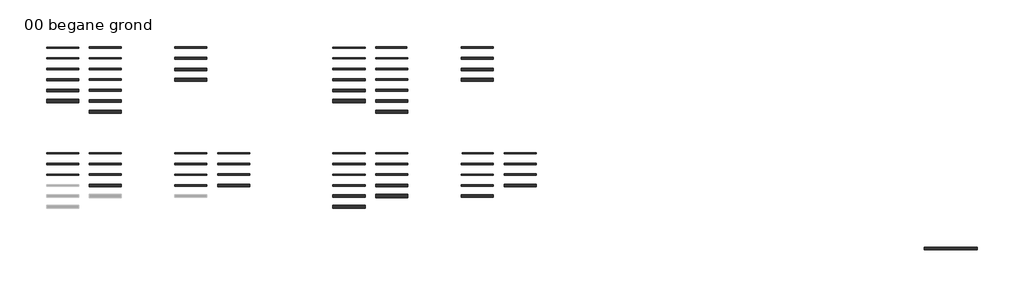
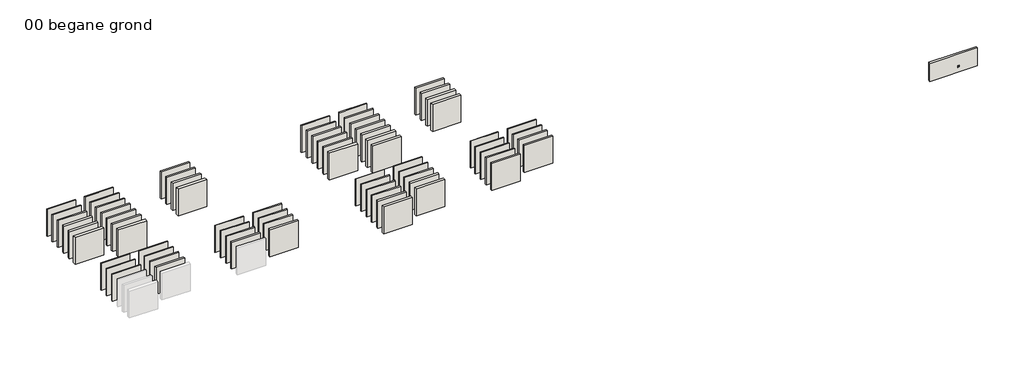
# One storey, part 2 of 4: 70 walls, 1 proxy.
"""IFC4 building model written with IfcOpenShell, lengths in millimetres."""

import ifcopenshell
import ifcopenshell.guid

model = None  # the IFC model being written
_history = None  # IfcOwnerHistory: only IFC2X3 demands one
_inside = {}  # id of a spatial element -> (the spatial element, [elements in it])
_under = {}  # id of a project, library or spatial element -> (it, [spatial elements below it])
_declared = {}  # id of a project -> (the project, [libraries it declares])
_typed = {}  # id of a type object -> (the type object, [elements of that type])
_made_of = {}  # id of a material, layer set ... -> (it, [elements and type objects made of it])


def new_model(schema):
    """Start an empty IFC model of exactly this schema.

    Asked for "IFC4X3", IfcOpenShell would pick the latest addendum, in which some entities
    have other attributes; the version numbers below select the first issue.
    IFC2X3 requires an IfcOwnerHistory on every rooted entity: one is made here for all.
    """
    global model, _history
    if schema == "IFC4X3":
        model = ifcopenshell.file(schema_version=(4, 3, 0, 0))
    else:
        model = ifcopenshell.file(schema=schema)
    _inside.clear()
    _under.clear()
    _declared.clear()
    _typed.clear()
    _made_of.clear()
    _history = None
    if model.schema == "IFC2X3":
        org = make("IfcOrganization", Name="unknown")
        user = make(
            "IfcPersonAndOrganization",
            ThePerson=make("IfcPerson", FamilyName="unknown"),
            TheOrganization=org,
        )
        app = make(
            "IfcApplication",
            ApplicationDeveloper=org,
            Version="unknown",
            ApplicationFullName="unknown",
            ApplicationIdentifier="unknown",
        )
        _history = make(
            "IfcOwnerHistory",
            OwningUser=user,
            OwningApplication=app,
            ChangeAction="ADDED",
            CreationDate=0,
        )
    return model


def make(cls, **values):
    """One entity of the class cls with the attributes given. An attribute that is None is left unset."""
    return model.create_entity(
        cls, **{name: value for name, value in values.items() if value is not None}
    )


def rooted(cls, **values):
    """An entity with a GlobalId (a new one), such as an element, a storey or a relation."""
    return make(cls, GlobalId=ifcopenshell.guid.new(), OwnerHistory=_history, **values)


def si_unit(unit_type, name, prefix=None):
    """IfcSIUnit, for example si_unit("LENGTHUNIT", "METRE", prefix="MILLI")."""
    return make("IfcSIUnit", UnitType=unit_type, Prefix=prefix, Name=name)


def assignment(units):
    """IfcUnitAssignment: the units of a project."""
    return None if units is None else make("IfcUnitAssignment", Units=units)


def point(xyz):
    """IfcCartesianPoint."""
    return None if xyz is None else make("IfcCartesianPoint", Coordinates=xyz)


def direction(xyz):
    """IfcDirection."""
    return None if xyz is None else make("IfcDirection", DirectionRatios=xyz)


def frame(location, z_axis=None, x_axis=None):
    """IfcAxis2Placement3D, a coordinate frame: its origin and axes. An axis left out is left unset."""
    return make(
        "IfcAxis2Placement3D",
        Location=point(location),
        Axis=direction(z_axis),
        RefDirection=direction(x_axis),
    )


def origin():
    """The frame at (0, 0, 0) with its axes left unset."""
    return frame((0.0, 0.0, 0.0))


def origin_with_axes():
    """The frame at (0, 0, 0) with the z axis (0, 0, 1) and the x axis (1, 0, 0) written out."""
    return frame((0.0, 0.0, 0.0), z_axis=(0.0, 0.0, 1.0), x_axis=(1.0, 0.0, 0.0))


def place(relative_to, where):
    """IfcLocalPlacement: puts the frame where relative to a parent placement (None: the world)."""
    return make(
        "IfcLocalPlacement", PlacementRelTo=relative_to, RelativePlacement=where
    )


def context(
    kind, dimensions, precision=None, world=None, true_north=None, identifier=None
):
    """IfcGeometricRepresentationContext, for example the 3D "Model" context."""
    return make(
        "IfcGeometricRepresentationContext",
        ContextIdentifier=identifier,
        ContextType=kind,
        CoordinateSpaceDimension=dimensions,
        Precision=precision,
        WorldCoordinateSystem=world,
        TrueNorth=true_north,
    )


def project(units=None, contexts=None):
    """IfcProject with its units and contexts."""
    return rooted(
        "IfcProject",
        Name="project",
        RepresentationContexts=contexts,
        UnitsInContext=assignment(units),
    )


def spatial(cls, under=None, at=None, **own):
    """A site, building, storey or space (cls), placed at a placement, below another one or the project."""
    s = rooted(cls, ObjectPlacement=at, **own)
    if under is not None:
        _under.setdefault(under.id(), (under, []))[1].append(s)
    return s


def polyline(points):
    """IfcPolyline through the points."""
    return make("IfcPolyline", Points=[point(p) for p in points])


def outline(outer, holes=None, kind="AREA"):
    """IfcArbitraryClosedProfileDef: a profile drawn as a closed curve; with holes, ...WithVoids."""
    if holes is None:
        return make("IfcArbitraryClosedProfileDef", ProfileType=kind, OuterCurve=outer)
    return make(
        "IfcArbitraryProfileDefWithVoids",
        ProfileType=kind,
        OuterCurve=outer,
        InnerCurves=holes,
    )


def extrude(swept, where, along, depth):
    """IfcExtrudedAreaSolid: the profile swept, set in the frame where, extruded along a direction by depth."""
    return make(
        "IfcExtrudedAreaSolid",
        SweptArea=swept,
        Position=where,
        ExtrudedDirection=direction(along),
        Depth=depth,
    )


def shape(context_of_items, identifier, shape_type, items):
    """IfcShapeRepresentation: the items that make up one representation, for example the "Body"."""
    return make(
        "IfcShapeRepresentation",
        ContextOfItems=context_of_items,
        RepresentationIdentifier=identifier,
        RepresentationType=shape_type,
        Items=items,
    )


def source(mapping_origin, context_of_items, identifier, shape_type, items):
    """IfcRepresentationMap: a shape defined once, which mapped items show again and again."""
    return make(
        "IfcRepresentationMap",
        MappingOrigin=mapping_origin,
        MappedRepresentation=shape(context_of_items, identifier, shape_type, items),
    )


def transform(
    local_origin,
    x_axis=None,
    y_axis=None,
    z_axis=None,
    scale=None,
    scale2=None,
    scale3=None,
    uniform=True,
):
    """IfcCartesianTransformationOperator3D, or its non-uniform kind. x_axis, y_axis, z_axis: its Axis1, 2, 3."""
    if uniform:
        return make(
            "IfcCartesianTransformationOperator3D",
            Axis1=direction(x_axis),
            Axis2=direction(y_axis),
            LocalOrigin=point(local_origin),
            Scale=scale,
            Axis3=direction(z_axis),
        )
    return make(
        "IfcCartesianTransformationOperator3DnonUniform",
        Axis1=direction(x_axis),
        Axis2=direction(y_axis),
        LocalOrigin=point(local_origin),
        Scale=scale,
        Axis3=direction(z_axis),
        Scale2=scale2,
        Scale3=scale3,
    )


def mapped(mapping_source, mapping_target):
    """IfcMappedItem: shows the shape of a source again, moved by a transform."""
    return make(
        "IfcMappedItem", MappingSource=mapping_source, MappingTarget=mapping_target
    )


def made_of(thing, what):
    """Note that an element or type object is made of a material, layer set ...; save() writes the relation."""
    if what is not None:
        _made_of.setdefault(what.id(), (what, []))[1].append(thing)
    return thing


def element(
    cls,
    number,
    at=None,
    inside=None,
    cuts=None,
    type_object=None,
    material=None,
    context=None,
    identifier="Body",
    shape_type=None,
    held_by="IfcProductDefinitionShape",
    body=None,
    shapes=None,
    **own,
):
    """One element of the class cls, such as IfcWall. Its Tag is "e" and its number.

    at: its placement. inside: the storey or other place that contains it. cuts: it is an
    opening in that element (IfcRelVoidsElement). A single representation is given by context,
    identifier, shape_type and body (its items); several are given by shapes. held_by: the class
    of the entity that holds the representations. save() writes the other relations.
    """
    e = rooted(cls, Tag="e%d" % number, ObjectPlacement=at, **own)
    if body is not None:
        shapes = [shape(context, identifier, shape_type, body)]
    if shapes is not None:
        e.Representation = make(held_by, Representations=shapes)
    if inside is not None:
        _inside.setdefault(inside.id(), (inside, []))[1].append(e)
    if cuts is not None:
        rooted(
            "IfcRelVoidsElement", RelatingBuildingElement=cuts, RelatedOpeningElement=e
        )
    if type_object is not None:
        _typed.setdefault(type_object.id(), (type_object, []))[1].append(e)
    return made_of(e, material)


def aggregate(whole, parts):
    """IfcRelAggregates: a whole, such as a stair, and the parts it consists of."""
    return rooted("IfcRelAggregates", RelatingObject=whole, RelatedObjects=parts)


def save(model, path):
    """Write the relations noted so far, then the file.

    IfcRelAggregates (storeys below a building ...), IfcRelContainedInSpatialStructure (elements
    in a storey), IfcRelDefinesByType, IfcRelAssociatesMaterial and IfcRelDeclares: one each for
    every whole, place, type object, material and project.
    """
    for whole, parts in _under.values():
        aggregate(whole, parts)
    for where, things in _inside.values():
        rooted(
            "IfcRelContainedInSpatialStructure",
            RelatedElements=things,
            RelatingStructure=where,
        )
    for kind, things in _typed.values():
        rooted("IfcRelDefinesByType", RelatedObjects=things, RelatingType=kind)
    for what, things in _made_of.values():
        rooted("IfcRelAssociatesMaterial", RelatedObjects=things, RelatingMaterial=what)
    for by, libraries in _declared.values():
        rooted("IfcRelDeclares", RelatingContext=by, RelatedDefinitions=libraries)
    model.write(path)


def proxy_200x200_dde65a00(model_context):
    return source(origin(), model_context, "Body", "SweptSolid", [
        extrude(outline(polyline([(125.0, 0.0), (25.0, 0.0), (25.0, 125.0), (125.0, 125.0), (125.0, 0.0)])), frame((0.0, 0.0, 567.3627135), z_axis=(0.0, 0.0, 1.0), x_axis=(1.0, 0.0, 0.0)), (0.0, 0.0, 1.0), 100.0),
        extrude(outline(polyline([(225.0, 0.0), (125.0, 0.0), (125.0, 125.0), (225.0, 125.0), (225.0, 0.0)])), frame((0.0, 0.0, 667.3627135), z_axis=(0.0, 0.0, 1.0), x_axis=(1.0, 0.0, 0.0)), (0.0, 0.0, 1.0), 100.0),
        extrude(outline(polyline([(225.0, 0.0), (125.0, 0.0), (125.0, 125.0), (225.0, 125.0), (225.0, 0.0)])), frame((0.0, 0.0, 567.3627135), z_axis=(0.0, 0.0, 1.0), x_axis=(1.0, 0.0, 0.0)), (0.0, 0.0, 1.0), 100.0),
        extrude(outline(polyline([(125.0, 0.0), (25.0, 0.0), (25.0, 125.0), (125.0, 125.0), (125.0, 0.0)])), frame((0.0, 0.0, 667.3627135), z_axis=(0.0, 0.0, 1.0), x_axis=(1.0, 0.0, 0.0)), (0.0, 0.0, 1.0), 100.0),
        extrude(outline(polyline([(125.0, -125.0), (25.0, -125.0), (25.0, 0.0), (125.0, 0.0), (125.0, -125.0)])), frame((0.0, 0.0, 567.3627135), z_axis=(0.0, 0.0, 1.0), x_axis=(1.0, 0.0, 0.0)), (0.0, 0.0, 1.0), 100.0),
        extrude(outline(polyline([(225.0, -125.0), (125.0, -125.0), (125.0, 0.0), (225.0, 0.0), (225.0, -125.0)])), frame((0.0, 0.0, 667.3627135), z_axis=(0.0, 0.0, 1.0), x_axis=(1.0, 0.0, 0.0)), (0.0, 0.0, 1.0), 100.0),
        extrude(outline(polyline([(225.0, -125.0), (125.0, -125.0), (125.0, 0.0), (225.0, 0.0), (225.0, -125.0)])), frame((0.0, 0.0, 567.3627135), z_axis=(0.0, 0.0, 1.0), x_axis=(1.0, 0.0, 0.0)), (0.0, 0.0, 1.0), 100.0),
        extrude(outline(polyline([(125.0, -125.0), (25.0, -125.0), (25.0, 0.0), (125.0, 0.0), (125.0, -125.0)])), frame((0.0, 0.0, 667.3627135), z_axis=(0.0, 0.0, 1.0), x_axis=(1.0, 0.0, 0.0)), (0.0, 0.0, 1.0), 100.0),
    ])


model = new_model("IFC4")

# Units and contexts
model_context = context("Model", 3, world=origin())
ifc_project = project(units=[si_unit("LENGTHUNIT", "METRE", prefix="MILLI")], contexts=[model_context])

# Site, building, storey
site = spatial("IfcSite", under=ifc_project)
building = spatial("IfcBuilding", under=site)
storey = spatial("IfcBuildingStorey", under=building, Name="00 begane grond", Elevation=0.0)

# Proxy
placement = place(None, origin())
proxy_200x200_shape = proxy_200x200_dde65a00(model_context)
element("IfcBuildingElementProxy", 1, Name="32.10_sparing rechthoek wall based : 200x200", ObjectType="32.10_sparing rechthoek wall based : 200x200", at=placement, inside=storey, context=model_context, shape_type="MappedRepresentation", body=[
    mapped(proxy_200x200_shape, transform((87440.4943783, -13755.7608943, -27.3627135), x_axis=(1.0, 0.0, 0.0), y_axis=(0.0, 1.0, 0.0), z_axis=(0.0, 0.0, 1.0))),
])

# Walls
element("IfcWall", 2, ObjectType="21.10_175mm kalkzandsteen hoogbouwelement CS36", at=placement, inside=storey, context=model_context, shape_type="SweptSolid", body=[
    extrude(outline(polyline([(17468.8995272, 4977.1461547), (14468.8995272, 4977.1461547), (14468.8995272, 5152.1461547), (17468.8995272, 5152.1461547), (17468.8995272, 4977.1461547)])), origin_with_axes(), (0.0, 0.0, 1.0), 3000.0),
])
element("IfcWall", 3, ObjectType="21.10_214mm kalkzandsteen hoogbouwelement CS36", at=placement, inside=storey, context=model_context, shape_type="SweptSolid", body=[
    extrude(outline(polyline([(17468.8995272, 3957.6461547), (14468.8995272, 3957.6461547), (14468.8995272, 4171.6461547), (17468.8995272, 4171.6461547), (17468.8995272, 3957.6461547)])), origin_with_axes(), (0.0, 0.0, 1.0), 3000.0),
])
element("IfcWall", 4, ObjectType="21.10_250mm kalkzandsteen hoogbouwelement CS36", at=placement, inside=storey, context=model_context, shape_type="SweptSolid", body=[
    extrude(outline(polyline([(17468.8995272, 2871.6461547), (14468.8995272, 2871.6461547), (14468.8995272, 3121.6461547), (17468.8995272, 3121.6461547), (17468.8995272, 2871.6461547)])), origin_with_axes(), (0.0, 0.0, 1.0), 3000.0),
])
element("IfcWall", 5, ObjectType="21.10_67mm kalkzandsteen lijmblok CS12", at=placement, inside=storey, context=model_context, shape_type="SweptSolid", body=[
    extrude(outline(polyline([(5468.8995272, -4868.8538453), (2468.8995272, -4868.8538453), (2468.8995272, -4801.8538453), (5468.8995272, -4801.8538453), (5468.8995272, -4868.8538453)])), origin_with_axes(), (0.0, 0.0, 1.0), 3000.0),
])
element("IfcWall", 6, ObjectType="21.10_100mm kalkzandsteen lijmblok CS12", at=placement, inside=storey, context=model_context, shape_type="SweptSolid", body=[
    extrude(outline(polyline([(5468.8995272, -5885.3538453), (2468.8995272, -5885.3538453), (2468.8995272, -5785.3538453), (5468.8995272, -5785.3538453), (5468.8995272, -5885.3538453)])), origin_with_axes(), (0.0, 0.0, 1.0), 3000.0),
])
element("IfcWall", 7, ObjectType="21.10_120mm kalkzandsteen lijmblok CS12", at=placement, inside=storey, context=model_context, shape_type="SweptSolid", body=[
    extrude(outline(polyline([(5468.8995272, -6895.3538453), (2468.8995272, -6895.3538453), (2468.8995272, -6775.3538453), (5468.8995272, -6775.3538453), (5468.8995272, -6895.3538453)])), origin_with_axes(), (0.0, 0.0, 1.0), 3000.0),
])
element("IfcWall", 8, ObjectType="21.10_100mm kalkzandsteen lijmblok CS20", at=placement, inside=storey, context=model_context, shape_type="SweptSolid", body=[
    extrude(outline(polyline([(9468.8995272, -4885.3538453), (6468.8995272, -4885.3538453), (6468.8995272, -4785.3538453), (9468.8995272, -4785.3538453), (9468.8995272, -4885.3538453)])), origin_with_axes(), (0.0, 0.0, 1.0), 3000.0),
])
element("IfcWall", 9, ObjectType="21.10_120mm kalkzandsteen lijmblok CS20", at=placement, inside=storey, context=model_context, shape_type="SweptSolid", body=[
    extrude(outline(polyline([(9468.8995272, -5895.3538453), (6468.8995272, -5895.3538453), (6468.8995272, -5775.3538453), (9468.8995272, -5775.3538453), (9468.8995272, -5895.3538453)])), origin_with_axes(), (0.0, 0.0, 1.0), 3000.0),
])
element("IfcWall", 10, ObjectType="21.10_150mm kalkzandsteen lijmblok CS20", at=placement, inside=storey, context=model_context, shape_type="SweptSolid", body=[
    extrude(outline(polyline([(9468.8995272, -6910.3538453), (6468.8995272, -6910.3538453), (6468.8995272, -6760.3538453), (9468.8995272, -6760.3538453), (9468.8995272, -6910.3538453)])), origin_with_axes(), (0.0, 0.0, 1.0), 3000.0),
])
element("IfcWall", 11, ObjectType="21.10_214mm kalkzandsteen lijmblok CS20", at=placement, inside=storey, context=model_context, shape_type="SweptSolid", body=[
    extrude(outline(polyline([(9468.8995272, -7942.3538453), (6468.8995272, -7942.3538453), (6468.8995272, -7728.3538453), (9468.8995272, -7728.3538453), (9468.8995272, -7942.3538453)])), origin_with_axes(), (0.0, 0.0, 1.0), 3000.0),
])
element("IfcWall", 12, ObjectType="21.10_67mm kalkzandsteen vellingblok CS12", at=placement, inside=storey, context=model_context, shape_type="SweptSolid", body=[
    extrude(outline(polyline([(17468.8995272, -4868.8538453), (14468.8995272, -4868.8538453), (14468.8995272, -4801.8538453), (17468.8995272, -4801.8538453), (17468.8995272, -4868.8538453)])), origin_with_axes(), (0.0, 0.0, 1.0), 3000.0),
])
element("IfcWall", 13, ObjectType="21.10_100mm kalkzandsteen vellingblok CS12", at=placement, inside=storey, context=model_context, shape_type="SweptSolid", body=[
    extrude(outline(polyline([(17468.8995272, -5885.3538453), (14468.8995272, -5885.3538453), (14468.8995272, -5785.3538453), (17468.8995272, -5785.3538453), (17468.8995272, -5885.3538453)])), origin_with_axes(), (0.0, 0.0, 1.0), 3000.0),
])
element("IfcWall", 14, ObjectType="21.10_120mm kalkzandsteen vellingblok CS12", at=placement, inside=storey, context=model_context, shape_type="SweptSolid", body=[
    extrude(outline(polyline([(17468.8995272, -6895.3538453), (14468.8995272, -6895.3538453), (14468.8995272, -6775.3538453), (17468.8995272, -6775.3538453), (17468.8995272, -6895.3538453)])), origin_with_axes(), (0.0, 0.0, 1.0), 3000.0),
])
element("IfcWall", 15, ObjectType="21.10_150mm kalkzandsteen vellingblok CS12", at=placement, inside=storey, context=model_context, shape_type="SweptSolid", body=[
    extrude(outline(polyline([(17468.8995272, -7910.3538453), (14468.8995272, -7910.3538453), (14468.8995272, -7760.3538453), (17468.8995272, -7760.3538453), (17468.8995272, -7910.3538453)])), origin_with_axes(), (0.0, 0.0, 1.0), 3000.0),
])
element("IfcWall", 16, ObjectType="21.10_100mm kalkzandsteen vellingblok CS20", at=placement, inside=storey, context=model_context, shape_type="SweptSolid", body=[
    extrude(outline(polyline([(21468.8995272, -4885.3538453), (18468.8995272, -4885.3538453), (18468.8995272, -4785.3538453), (21468.8995272, -4785.3538453), (21468.8995272, -4885.3538453)])), origin_with_axes(), (0.0, 0.0, 1.0), 3000.0),
])
element("IfcWall", 17, ObjectType="21.10_120mm kalkzandsteen vellingblok CS20", at=placement, inside=storey, context=model_context, shape_type="SweptSolid", body=[
    extrude(outline(polyline([(21468.8995272, -5895.3538453), (18468.8995272, -5895.3538453), (18468.8995272, -5775.3538453), (21468.8995272, -5775.3538453), (21468.8995272, -5895.3538453)])), origin_with_axes(), (0.0, 0.0, 1.0), 3000.0),
])
element("IfcWall", 18, ObjectType="21.10_150mm kalkzandsteen vellingblok CS20", at=placement, inside=storey, context=model_context, shape_type="SweptSolid", body=[
    extrude(outline(polyline([(21468.8995272, -6910.3538453), (18468.8995272, -6910.3538453), (18468.8995272, -6760.3538453), (21468.8995272, -6760.3538453), (21468.8995272, -6910.3538453)])), origin_with_axes(), (0.0, 0.0, 1.0), 3000.0),
])
element("IfcWall", 19, ObjectType="21.10_214mm kalkzandsteen vellingblok CS20", at=placement, inside=storey, context=model_context, shape_type="SweptSolid", body=[
    extrude(outline(polyline([(21468.8995272, -7942.3538453), (18468.8995272, -7942.3538453), (18468.8995272, -7728.3538453), (21468.8995272, -7728.3538453), (21468.8995272, -7942.3538453)])), origin_with_axes(), (0.0, 0.0, 1.0), 3000.0),
])
element("IfcWall", 20, ObjectType="21.10_300mm kalkzandsteen hoogbouwelement CS36", at=placement, inside=storey, context=model_context, shape_type="SweptSolid", body=[
    extrude(outline(polyline([(17468.8995272, 1889.6461547), (14468.8995272, 1889.6461547), (14468.8995272, 2189.6461547), (17468.8995272, 2189.6461547), (17468.8995272, 1889.6461547)])), origin_with_axes(), (0.0, 0.0, 1.0), 3000.0),
])
element("IfcWall", 21, ObjectType="22.10_175mm kalkzandsteen hoogbouwelement CS36", at=placement, inside=storey, context=model_context, shape_type="SweptSolid", body=[
    extrude(outline(polyline([(44268.8995272, 4977.1461547), (41268.8995272, 4977.1461547), (41268.8995272, 5152.1461547), (44268.8995272, 5152.1461547), (44268.8995272, 4977.1461547)])), origin_with_axes(), (0.0, 0.0, 1.0), 3000.0),
])
element("IfcWall", 22, ObjectType="22.10_214mm kalkzandsteen hoogbouwelement CS36", at=placement, inside=storey, context=model_context, shape_type="SweptSolid", body=[
    extrude(outline(polyline([(44268.8995272, 3957.6461547), (41268.8995272, 3957.6461547), (41268.8995272, 4171.6461547), (44268.8995272, 4171.6461547), (44268.8995272, 3957.6461547)])), origin_with_axes(), (0.0, 0.0, 1.0), 3000.0),
])
element("IfcWall", 23, ObjectType="22.10_250mm kalkzandsteen hoogbouwelement CS36", at=placement, inside=storey, context=model_context, shape_type="SweptSolid", body=[
    extrude(outline(polyline([(44268.8995272, 2871.6461547), (41268.8995272, 2871.6461547), (41268.8995272, 3121.6461547), (44268.8995272, 3121.6461547), (44268.8995272, 2871.6461547)])), origin_with_axes(), (0.0, 0.0, 1.0), 3000.0),
])
element("IfcWall", 24, ObjectType="22.10_67mm kalkzandsteen lijmblok CS12", at=placement, inside=storey, context=model_context, shape_type="SweptSolid", body=[
    extrude(outline(polyline([(32268.8995272, -4868.8538453), (29268.8995272, -4868.8538453), (29268.8995272, -4801.8538453), (32268.8995272, -4801.8538453), (32268.8995272, -4868.8538453)])), origin_with_axes(), (0.0, 0.0, 1.0), 3000.0),
])
element("IfcWall", 25, ObjectType="22.10_100mm kalkzandsteen lijmblok CS12", at=placement, inside=storey, context=model_context, shape_type="SweptSolid", body=[
    extrude(outline(polyline([(32268.8995272, -5885.3538453), (29268.8995272, -5885.3538453), (29268.8995272, -5785.3538453), (32268.8995272, -5785.3538453), (32268.8995272, -5885.3538453)])), origin_with_axes(), (0.0, 0.0, 1.0), 3000.0),
])
element("IfcWall", 26, ObjectType="22.10_120mm kalkzandsteen lijmblok CS12", at=placement, inside=storey, context=model_context, shape_type="SweptSolid", body=[
    extrude(outline(polyline([(32268.8995272, -6895.3538453), (29268.8995272, -6895.3538453), (29268.8995272, -6775.3538453), (32268.8995272, -6775.3538453), (32268.8995272, -6895.3538453)])), origin_with_axes(), (0.0, 0.0, 1.0), 3000.0),
])
element("IfcWall", 27, ObjectType="22.10_150mm kalkzandsteen lijmblok CS12", at=placement, inside=storey, context=model_context, shape_type="SweptSolid", body=[
    extrude(outline(polyline([(32268.8995272, -7910.3538453), (29268.8995272, -7910.3538453), (29268.8995272, -7760.3538453), (32268.8995272, -7760.3538453), (32268.8995272, -7910.3538453)])), origin_with_axes(), (0.0, 0.0, 1.0), 3000.0),
])
element("IfcWall", 28, ObjectType="22.10_214mm kalkzandsteen lijmblok CS12", at=placement, inside=storey, context=model_context, shape_type="SweptSolid", body=[
    extrude(outline(polyline([(32268.8995272, -8942.3538453), (29268.8995272, -8942.3538453), (29268.8995272, -8728.3538453), (32268.8995272, -8728.3538453), (32268.8995272, -8942.3538453)])), origin_with_axes(), (0.0, 0.0, 1.0), 3000.0),
])
element("IfcWall", 29, ObjectType="22.10_300mm kalkzandsteen lijmblok CS12", at=placement, inside=storey, context=model_context, shape_type="SweptSolid", body=[
    extrude(outline(polyline([(32268.8995272, -9985.3538453), (29268.8995272, -9985.3538453), (29268.8995272, -9685.3538453), (32268.8995272, -9685.3538453), (32268.8995272, -9985.3538453)])), origin_with_axes(), (0.0, 0.0, 1.0), 3000.0),
])
element("IfcWall", 30, ObjectType="22.10_100mm kalkzandsteen lijmblok CS20", at=placement, inside=storey, context=model_context, shape_type="SweptSolid", body=[
    extrude(outline(polyline([(36268.8995272, -4885.3538453), (33268.8995272, -4885.3538453), (33268.8995272, -4785.3538453), (36268.8995272, -4785.3538453), (36268.8995272, -4885.3538453)])), origin_with_axes(), (0.0, 0.0, 1.0), 3000.0),
])
element("IfcWall", 31, ObjectType="22.10_120mm kalkzandsteen lijmblok CS20", at=placement, inside=storey, context=model_context, shape_type="SweptSolid", body=[
    extrude(outline(polyline([(36268.8995272, -5895.3538453), (33268.8995272, -5895.3538453), (33268.8995272, -5775.3538453), (36268.8995272, -5775.3538453), (36268.8995272, -5895.3538453)])), origin_with_axes(), (0.0, 0.0, 1.0), 3000.0),
])
element("IfcWall", 32, ObjectType="22.10_150mm kalkzandsteen lijmblok CS20", at=placement, inside=storey, context=model_context, shape_type="SweptSolid", body=[
    extrude(outline(polyline([(36268.8995272, -6910.3538453), (33268.8995272, -6910.3538453), (33268.8995272, -6760.3538453), (36268.8995272, -6760.3538453), (36268.8995272, -6910.3538453)])), origin_with_axes(), (0.0, 0.0, 1.0), 3000.0),
])
element("IfcWall", 33, ObjectType="22.10_214mm kalkzandsteen lijmblok CS20", at=placement, inside=storey, context=model_context, shape_type="SweptSolid", body=[
    extrude(outline(polyline([(36268.8995272, -7942.3538453), (33268.8995272, -7942.3538453), (33268.8995272, -7728.3538453), (36268.8995272, -7728.3538453), (36268.8995272, -7942.3538453)])), origin_with_axes(), (0.0, 0.0, 1.0), 3000.0),
])
element("IfcWall", 34, ObjectType="22.10_300mm kalkzandsteen lijmblok CS20", at=placement, inside=storey, context=model_context, shape_type="SweptSolid", body=[
    extrude(outline(polyline([(36268.8995272, -8985.3538453), (33268.8995272, -8985.3538453), (33268.8995272, -8685.3538453), (36268.8995272, -8685.3538453), (36268.8995272, -8985.3538453)])), origin_with_axes(), (0.0, 0.0, 1.0), 3000.0),
])
element("IfcWall", 35, ObjectType="22.10_67mm kalkzandsteen vellingblok CS12", at=placement, inside=storey, context=model_context, shape_type="SweptSolid", body=[
    extrude(outline(polyline([(44268.8995272, -4868.8538453), (41368.8995272, -4868.8538453), (41368.8995272, -4801.8538453), (44268.8995272, -4801.8538453), (44268.8995272, -4868.8538453)])), origin_with_axes(), (0.0, 0.0, 1.0), 3000.0),
])
element("IfcWall", 36, ObjectType="22.10_100mm kalkzandsteen vellingblok CS12", at=placement, inside=storey, context=model_context, shape_type="SweptSolid", body=[
    extrude(outline(polyline([(44268.8995272, -5885.3538453), (41268.8995272, -5885.3538453), (41268.8995272, -5785.3538453), (44268.8995272, -5785.3538453), (44268.8995272, -5885.3538453)])), origin_with_axes(), (0.0, 0.0, 1.0), 3000.0),
])
element("IfcWall", 37, ObjectType="22.10_120mm kalkzandsteen vellingblok CS12", at=placement, inside=storey, context=model_context, shape_type="SweptSolid", body=[
    extrude(outline(polyline([(44268.8995272, -6895.3538453), (41268.8995272, -6895.3538453), (41268.8995272, -6775.3538453), (44268.8995272, -6775.3538453), (44268.8995272, -6895.3538453)])), origin_with_axes(), (0.0, 0.0, 1.0), 3000.0),
])
element("IfcWall", 38, ObjectType="22.10_150mm kalkzandsteen vellingblok CS12", at=placement, inside=storey, context=model_context, shape_type="SweptSolid", body=[
    extrude(outline(polyline([(44268.8995272, -7910.3538453), (41268.8995272, -7910.3538453), (41268.8995272, -7760.3538453), (44268.8995272, -7760.3538453), (44268.8995272, -7910.3538453)])), origin_with_axes(), (0.0, 0.0, 1.0), 3000.0),
])
element("IfcWall", 39, ObjectType="22.10_214mm kalkzandsteen vellingblok CS12", at=placement, inside=storey, context=model_context, shape_type="SweptSolid", body=[
    extrude(outline(polyline([(44268.8995272, -8942.3538453), (41268.8995272, -8942.3538453), (41268.8995272, -8728.3538453), (44268.8995272, -8728.3538453), (44268.8995272, -8942.3538453)])), origin_with_axes(), (0.0, 0.0, 1.0), 3000.0),
])
element("IfcWall", 40, ObjectType="22.10_100mm kalkzandsteen vellingblok CS20", at=placement, inside=storey, context=model_context, shape_type="SweptSolid", body=[
    extrude(outline(polyline([(48268.8995272, -4885.3538453), (45268.8995272, -4885.3538453), (45268.8995272, -4785.3538453), (48268.8995272, -4785.3538453), (48268.8995272, -4885.3538453)])), origin_with_axes(), (0.0, 0.0, 1.0), 3000.0),
])
element("IfcWall", 41, ObjectType="22.10_120mm kalkzandsteen vellingblok CS20", at=placement, inside=storey, context=model_context, shape_type="SweptSolid", body=[
    extrude(outline(polyline([(48268.8995272, -5895.3538453), (45268.8995272, -5895.3538453), (45268.8995272, -5775.3538453), (48268.8995272, -5775.3538453), (48268.8995272, -5895.3538453)])), origin_with_axes(), (0.0, 0.0, 1.0), 3000.0),
])
element("IfcWall", 42, ObjectType="22.10_150mm kalkzandsteen vellingblok CS20", at=placement, inside=storey, context=model_context, shape_type="SweptSolid", body=[
    extrude(outline(polyline([(48268.8995272, -6910.3538453), (45268.8995272, -6910.3538453), (45268.8995272, -6760.3538453), (48268.8995272, -6760.3538453), (48268.8995272, -6910.3538453)])), origin_with_axes(), (0.0, 0.0, 1.0), 3000.0),
])
element("IfcWall", 43, ObjectType="22.10_214mm kalkzandsteen vellingblok CS20", at=placement, inside=storey, context=model_context, shape_type="SweptSolid", body=[
    extrude(outline(polyline([(48268.8995272, -7942.3538453), (45268.8995272, -7942.3538453), (45268.8995272, -7728.3538453), (48268.8995272, -7728.3538453), (48268.8995272, -7942.3538453)])), origin_with_axes(), (0.0, 0.0, 1.0), 3000.0),
])
element("IfcWall", 44, ObjectType="22.10_300mm kalkzandsteen hoogbouwelement CS36", at=placement, inside=storey, context=model_context, shape_type="SweptSolid", body=[
    extrude(outline(polyline([(44268.8995272, 1889.6461547), (41268.8995272, 1889.6461547), (41268.8995272, 2189.6461547), (44268.8995272, 2189.6461547), (44268.8995272, 1889.6461547)])), origin_with_axes(), (0.0, 0.0, 1.0), 3000.0),
])
element("IfcWall", 45, ObjectType="22.10_250mm kalkzandsteen hoogbouwelement CS36", at=placement, inside=storey, context=model_context, shape_type="SweptSolid", body=[
    extrude(outline(polyline([(0.0, 84565.4943783), (0.0, 89565.4943783), (2000.0, 89565.4943783), (2000.0, 84565.4943783), (0.0, 84565.4943783)]), holes=[polyline([(540.0, 87465.4943783), (740.0, 87465.4943783), (740.0, 87665.4943783), (540.0, 87665.4943783), (540.0, 87465.4943783)])]), frame((0.0, -13880.7608943, 0.0), z_axis=(0.0, 1.0, 0.0), x_axis=(0.0, 0.0, 1.0)), (0.0, 0.0, 1.0), 250.0),
])
element("IfcWall", 46, ObjectType="21.10_100mm kalkzandsteen element CS12", at=placement, inside=storey, context=model_context, shape_type="SweptSolid", body=[
    extrude(outline(polyline([(5468.8995272, 5004.6461547), (2468.8995272, 5004.6461547), (2468.8995272, 5104.6461547), (5468.8995272, 5104.6461547), (5468.8995272, 5004.6461547)])), origin_with_axes(), (0.0, 0.0, 1.0), 3000.0),
])
element("IfcWall", 47, ObjectType="21.10_100mm kalkzandsteen element CS20", at=placement, inside=storey, context=model_context, shape_type="SweptSolid", body=[
    extrude(outline(polyline([(9468.8995272, 5014.6461547), (6468.8995272, 5014.6461547), (6468.8995272, 5114.6461547), (9468.8995272, 5114.6461547), (9468.8995272, 5014.6461547)])), origin_with_axes(), (0.0, 0.0, 1.0), 3000.0),
])
element("IfcWall", 48, ObjectType="21.10_120mm kalkzandsteen element CS12", at=placement, inside=storey, context=model_context, shape_type="SweptSolid", body=[
    extrude(outline(polyline([(5468.8995272, 3994.6461547), (2468.8995272, 3994.6461547), (2468.8995272, 4114.6461547), (5468.8995272, 4114.6461547), (5468.8995272, 3994.6461547)])), origin_with_axes(), (0.0, 0.0, 1.0), 3000.0),
])
element("IfcWall", 49, ObjectType="21.10_120mm kalkzandsteen element CS20", at=placement, inside=storey, context=model_context, shape_type="SweptSolid", body=[
    extrude(outline(polyline([(9468.8995272, 4004.6461547), (6468.8995272, 4004.6461547), (6468.8995272, 4124.6461547), (9468.8995272, 4124.6461547), (9468.8995272, 4004.6461547)])), origin_with_axes(), (0.0, 0.0, 1.0), 3000.0),
])
element("IfcWall", 50, ObjectType="21.10_150mm kalkzandsteen element CS12", at=placement, inside=storey, context=model_context, shape_type="SweptSolid", body=[
    extrude(outline(polyline([(5468.8995272, 2970.1461547), (2468.8995272, 2970.1461547), (2468.8995272, 3120.1461547), (5468.8995272, 3120.1461547), (5468.8995272, 2970.1461547)])), origin_with_axes(), (0.0, 0.0, 1.0), 3000.0),
])
element("IfcWall", 51, ObjectType="21.10_150mm kalkzandsteen element CS20", at=placement, inside=storey, context=model_context, shape_type="SweptSolid", body=[
    extrude(outline(polyline([(9468.8995272, 2989.6461547), (6468.8995272, 2989.6461547), (6468.8995272, 3139.6461547), (9468.8995272, 3139.6461547), (9468.8995272, 2989.6461547)])), origin_with_axes(), (0.0, 0.0, 1.0), 3000.0),
])
element("IfcWall", 52, ObjectType="21.10_175mm kalkzandsteen element CS20", at=placement, inside=storey, context=model_context, shape_type="SweptSolid", body=[
    extrude(outline(polyline([(9468.8995272, 1977.1461547), (6468.8995272, 1977.1461547), (6468.8995272, 2152.1461547), (9468.8995272, 2152.1461547), (9468.8995272, 1977.1461547)])), origin_with_axes(), (0.0, 0.0, 1.0), 3000.0),
])
element("IfcWall", 53, ObjectType="21.10_214mm kalkzandsteen element CS12", at=placement, inside=storey, context=model_context, shape_type="SweptSolid", body=[
    extrude(outline(polyline([(5468.8995272, 1944.6461547), (2468.8995272, 1944.6461547), (2468.8995272, 2158.6461547), (5468.8995272, 2158.6461547), (5468.8995272, 1944.6461547)])), origin_with_axes(), (0.0, 0.0, 1.0), 3000.0),
])
element("IfcWall", 54, ObjectType="21.10_214mm kalkzandsteen element CS20", at=placement, inside=storey, context=model_context, shape_type="SweptSolid", body=[
    extrude(outline(polyline([(9468.8995272, 957.6461547), (6468.8995272, 957.6461547), (6468.8995272, 1171.6461547), (9468.8995272, 1171.6461547), (9468.8995272, 957.6461547)])), origin_with_axes(), (0.0, 0.0, 1.0), 3000.0),
])
element("IfcWall", 55, ObjectType="21.10_240mm kalkzandsteen element CS12", at=placement, inside=storey, context=model_context, shape_type="SweptSolid", body=[
    extrude(outline(polyline([(5468.8995272, 931.6461547), (2468.8995272, 931.6461547), (2468.8995272, 1171.6461547), (5468.8995272, 1171.6461547), (5468.8995272, 931.6461547)])), origin_with_axes(), (0.0, 0.0, 1.0), 3000.0),
])
element("IfcWall", 56, ObjectType="21.10_240mm kalkzandsteen element CS20", at=placement, inside=storey, context=model_context, shape_type="SweptSolid", body=[
    extrude(outline(polyline([(9468.8995272, -55.3538453), (6468.8995272, -55.3538453), (6468.8995272, 184.6461547), (9468.8995272, 184.6461547), (9468.8995272, -55.3538453)])), origin_with_axes(), (0.0, 0.0, 1.0), 3000.0),
])
element("IfcWall", 57, ObjectType="21.10_300mm kalkzandsteen element CS12", at=placement, inside=storey, context=model_context, shape_type="SweptSolid", body=[
    extrude(outline(polyline([(5468.8995272, -98.3538453), (2468.8995272, -98.3538453), (2468.8995272, 201.6461547), (5468.8995272, 201.6461547), (5468.8995272, -98.3538453)])), origin_with_axes(), (0.0, 0.0, 1.0), 3000.0),
])
element("IfcWall", 58, ObjectType="21.10_300mm kalkzandsteen element CS20", at=placement, inside=storey, context=model_context, shape_type="SweptSolid", body=[
    extrude(outline(polyline([(9468.8995272, -1085.3538453), (6468.8995272, -1085.3538453), (6468.8995272, -785.3538453), (9468.8995272, -785.3538453), (9468.8995272, -1085.3538453)])), origin_with_axes(), (0.0, 0.0, 1.0), 3000.0),
])
element("IfcWall", 59, ObjectType="22.10_100mm kalkzandsteen element CS12", at=placement, inside=storey, context=model_context, shape_type="SweptSolid", body=[
    extrude(outline(polyline([(32268.8995272, 5004.6461547), (29268.8995272, 5004.6461547), (29268.8995272, 5104.6461547), (32268.8995272, 5104.6461547), (32268.8995272, 5004.6461547)])), origin_with_axes(), (0.0, 0.0, 1.0), 3000.0),
])
element("IfcWall", 60, ObjectType="22.10_100mm kalkzandsteen element CS20", at=placement, inside=storey, context=model_context, shape_type="SweptSolid", body=[
    extrude(outline(polyline([(36168.8995272, 5014.6461547), (33268.8995272, 5014.6461547), (33268.8995272, 5114.6461547), (36168.8995272, 5114.6461547), (36168.8995272, 5014.6461547)])), origin_with_axes(), (0.0, 0.0, 1.0), 3000.0),
])
element("IfcWall", 61, ObjectType="22.10_120mm kalkzandsteen element CS12", at=placement, inside=storey, context=model_context, shape_type="SweptSolid", body=[
    extrude(outline(polyline([(32268.8995272, 3994.6461547), (29268.8995272, 3994.6461547), (29268.8995272, 4114.6461547), (32268.8995272, 4114.6461547), (32268.8995272, 3994.6461547)])), origin_with_axes(), (0.0, 0.0, 1.0), 3000.0),
])
element("IfcWall", 62, ObjectType="22.10_120mm kalkzandsteen element CS20", at=placement, inside=storey, context=model_context, shape_type="SweptSolid", body=[
    extrude(outline(polyline([(36268.8995272, 4004.6461547), (33268.8995272, 4004.6461547), (33268.8995272, 4124.6461547), (36268.8995272, 4124.6461547), (36268.8995272, 4004.6461547)])), origin_with_axes(), (0.0, 0.0, 1.0), 3000.0),
])
element("IfcWall", 63, ObjectType="22.10_150mm kalkzandsteen element CS12", at=placement, inside=storey, context=model_context, shape_type="SweptSolid", body=[
    extrude(outline(polyline([(32268.8995272, 2970.1461547), (29268.8995272, 2970.1461547), (29268.8995272, 3120.1461547), (32268.8995272, 3120.1461547), (32268.8995272, 2970.1461547)])), origin_with_axes(), (0.0, 0.0, 1.0), 3000.0),
])
element("IfcWall", 64, ObjectType="22.10_150mm kalkzandsteen element CS20", at=placement, inside=storey, context=model_context, shape_type="SweptSolid", body=[
    extrude(outline(polyline([(36268.8995272, 2989.6461547), (33268.8995272, 2989.6461547), (33268.8995272, 3139.6461547), (36268.8995272, 3139.6461547), (36268.8995272, 2989.6461547)])), origin_with_axes(), (0.0, 0.0, 1.0), 3000.0),
])
element("IfcWall", 65, ObjectType="22.10_175mm kalkzandsteen element CS20", at=placement, inside=storey, context=model_context, shape_type="SweptSolid", body=[
    extrude(outline(polyline([(36268.8995272, 1977.1461547), (33268.8995272, 1977.1461547), (33268.8995272, 2152.1461547), (36268.8995272, 2152.1461547), (36268.8995272, 1977.1461547)])), origin_with_axes(), (0.0, 0.0, 1.0), 3000.0),
])
element("IfcWall", 66, ObjectType="22.10_214mm kalkzandsteen element CS12", at=placement, inside=storey, context=model_context, shape_type="SweptSolid", body=[
    extrude(outline(polyline([(32268.8995272, 1944.6461547), (29268.8995272, 1944.6461547), (29268.8995272, 2158.6461547), (32268.8995272, 2158.6461547), (32268.8995272, 1944.6461547)])), origin_with_axes(), (0.0, 0.0, 1.0), 3000.0),
])
element("IfcWall", 67, ObjectType="22.10_214mm kalkzandsteen element CS20", at=placement, inside=storey, context=model_context, shape_type="SweptSolid", body=[
    extrude(outline(polyline([(36268.8995272, 957.6461547), (33268.8995272, 957.6461547), (33268.8995272, 1171.6461547), (36268.8995272, 1171.6461547), (36268.8995272, 957.6461547)])), origin_with_axes(), (0.0, 0.0, 1.0), 3000.0),
])
element("IfcWall", 68, ObjectType="22.10_240mm kalkzandsteen element CS12", at=placement, inside=storey, context=model_context, shape_type="SweptSolid", body=[
    extrude(outline(polyline([(32268.8995272, 931.6461547), (29268.8995272, 931.6461547), (29268.8995272, 1171.6461547), (32268.8995272, 1171.6461547), (32268.8995272, 931.6461547)])), origin_with_axes(), (0.0, 0.0, 1.0), 3000.0),
])
element("IfcWall", 69, ObjectType="22.10_240mm kalkzandsteen element CS20", at=placement, inside=storey, context=model_context, shape_type="SweptSolid", body=[
    extrude(outline(polyline([(36268.8995272, -55.3538453), (33268.8995272, -55.3538453), (33268.8995272, 184.6461547), (36268.8995272, 184.6461547), (36268.8995272, -55.3538453)])), origin_with_axes(), (0.0, 0.0, 1.0), 3000.0),
])
element("IfcWall", 70, ObjectType="22.10_300mm kalkzandsteen element CS12", at=placement, inside=storey, context=model_context, shape_type="SweptSolid", body=[
    extrude(outline(polyline([(32268.8995272, -98.3538453), (29268.8995272, -98.3538453), (29268.8995272, 201.6461547), (32268.8995272, 201.6461547), (32268.8995272, -98.3538453)])), origin_with_axes(), (0.0, 0.0, 1.0), 3000.0),
])
element("IfcWall", 71, ObjectType="22.10_300mm kalkzandsteen element CS20", at=placement, inside=storey, context=model_context, shape_type="SweptSolid", body=[
    extrude(outline(polyline([(36268.8995272, -1085.3538453), (33268.8995272, -1085.3538453), (33268.8995272, -785.3538453), (36268.8995272, -785.3538453), (36268.8995272, -1085.3538453)])), origin_with_axes(), (0.0, 0.0, 1.0), 3000.0),
])

save(model, "model.ifc")
